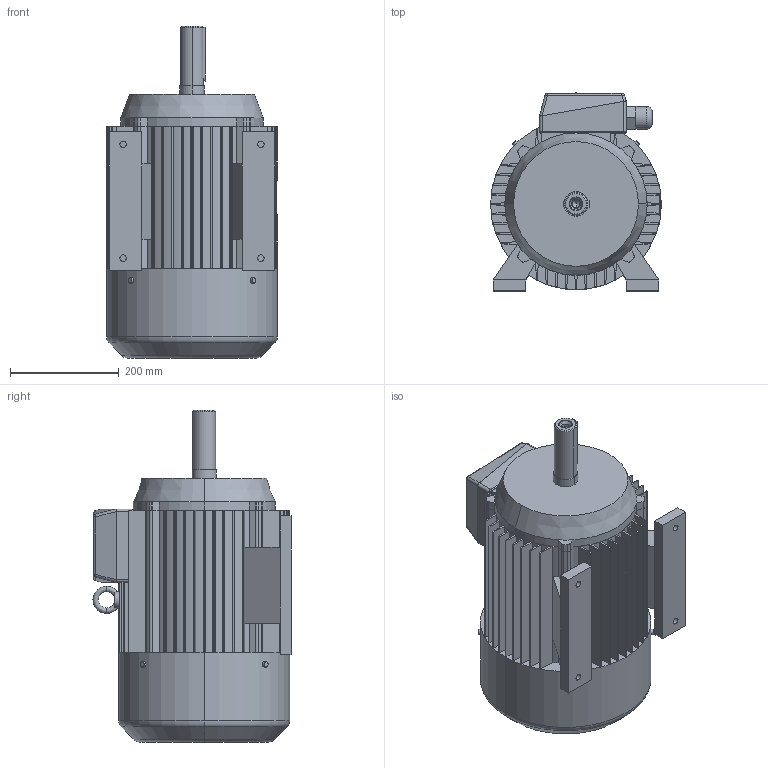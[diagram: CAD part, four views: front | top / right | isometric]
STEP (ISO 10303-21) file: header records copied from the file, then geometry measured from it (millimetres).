
FILE_DESCRIPTION (( 'STEP AP203' ), '1' );
FILE_NAME ('Sg 160M-B3.STEP', '2010-02-09T12:42:21', ( 'INDUKTA' ), ( 'CANTONI MOTOR' ), 'SwSTEP 2.0', 'SolidWorks 2003064', '' );
FILE_SCHEMA (( 'CONFIG_CONTROL_DESIGN' ));
Length unit declared in the file: millimetre
Products named in the file (1): Sg 160M-B3
Bounding box: 315 x 365 x 612 mm (x, y, z)
Volume: 33779564.4 mm3; surface area: 1587246.7 mm2
Topology: 15 solids, 15 shells, 517 faces, 1365 edges, 881 vertices
Faces by surface type: plane 264, cylinder 177, bspline 42, torus 16, cone 14, sphere 4
Entity records: 19088 total; most frequent: CARTESIAN_POINT 6251, ORIENTED_EDGE 2718, DIRECTION 2592, EDGE_CURVE 1359, VERTEX_POINT 881, AXIS2_PLACEMENT_3D 866, LINE 860, VECTOR 860
